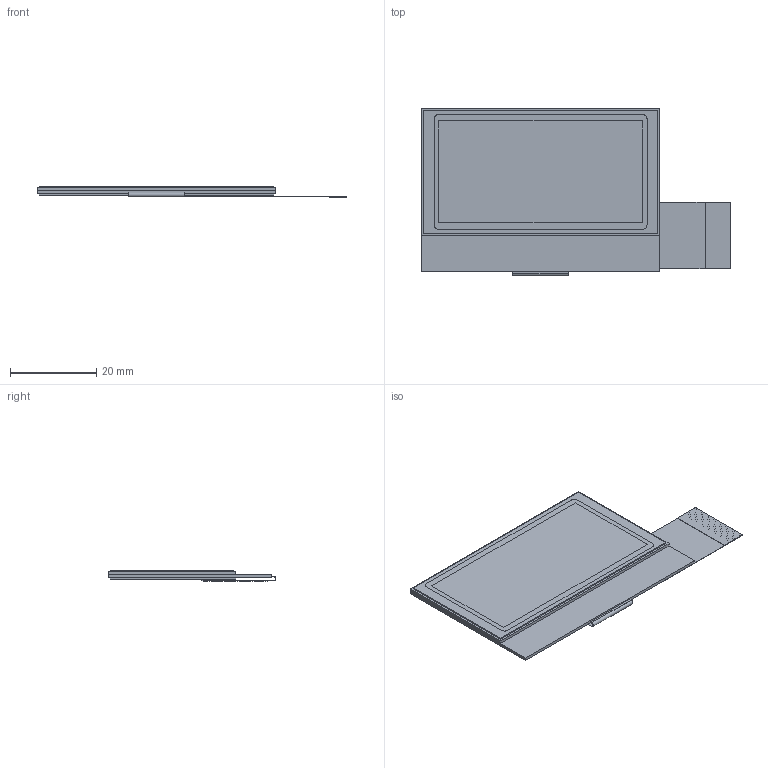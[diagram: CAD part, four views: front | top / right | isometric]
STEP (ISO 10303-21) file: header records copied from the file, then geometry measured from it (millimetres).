
FILE_DESCRIPTION (( 'STEP AP214' ), '1' );
FILE_NAME ('NHD-C12864GG-RN-GBW.STEP', '2018-02-21T17:02:05', ( '' ), ( '' ), 'SwSTEP 2.0', 'SolidWorks 2018', '' );
FILE_SCHEMA (( 'AUTOMOTIVE_DESIGN' ));
Length unit declared in the file: millimetre
Products named in the file (1): NHD-C12864GG-RN-GBW
Bounding box: 72 x 39.05 x 2.5 mm (x, y, z)
Volume: 4158.4 mm3; surface area: 17623.8 mm2
Topology: 5 solids, 5 shells, 178 faces, 490 edges, 324 vertices
Faces by surface type: plane 170, cylinder 8
Entity records: 5616 total; most frequent: CARTESIAN_POINT 993, ORIENTED_EDGE 980, DIRECTION 864, EDGE_CURVE 490, VECTOR 474, LINE 474, VERTEX_POINT 324, AXIS2_PLACEMENT_3D 195
